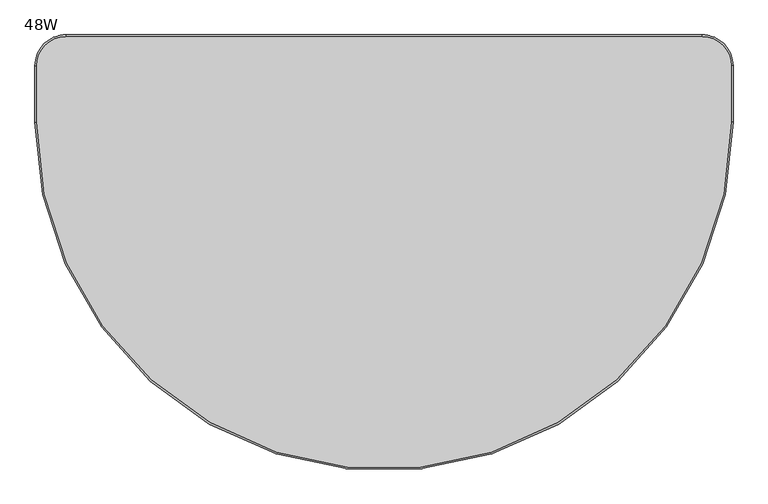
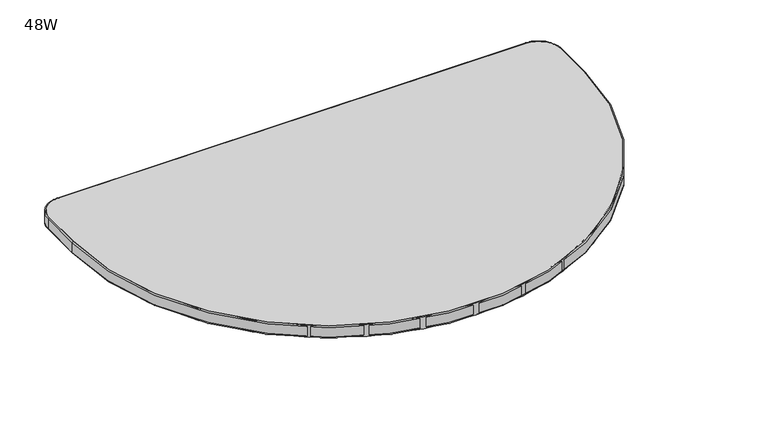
"""IFC4 building model written with IfcOpenShell, lengths in millimetres: furniture geometry, Steelcase - Answer Solution - Universal Table - Spanner : 48W."""

from ifc_helpers import new_model, si_unit, point, frame, frame_2d, origin, place, context, project, spatial, polyline, circle_curve, ellipse_curve, trimmed, segment, composite_curve, outline, extrude, source, transform, mapped, element, save
from ifc_brep_helpers import plane_surface, cylinder_surface, revolved_surface, advanced_brep


def furniture_48w_0849805d(model_context):
    return source(origin(), model_context, "Body", "SolidModel", [
        extrude(outline(composite_curve([segment(polyline([(-555.752, -3.0479999), (555.752, -3.0479999)]), True, "CONTINUOUS"), segment(trimmed(circle_curve(frame_2d((555.752, -53.8479999)), 50.8), [point((555.752, -3.0479999))], [point((606.552, -53.8479999))], False, "CARTESIAN"), True, "CONTINUOUS"), segment(polyline([(606.552, -53.8479999), (606.552, -152.3999999)]), True, "CONTINUOUS"), segment(trimmed(circle_curve(frame_2d((0.0, -152.3999999)), 606.552), [point((606.552, -152.3999999))], [point((-606.552, -152.3999999))], False, "CARTESIAN"), True, "CONTINUOUS"), segment(polyline([(-606.552, -152.3999999), (-606.552, -53.8479999)]), True, "CONTINUOUS"), segment(trimmed(circle_curve(frame_2d((-555.752, -53.8479999)), 50.8), [point((-606.552, -53.8479999))], [point((-555.752, -3.0479999))], False, "CARTESIAN"), True, "CONTINUOUS")], self_intersect=False)), frame((0.0, 0.0, 668.274), z_axis=(0.0, 0.0, 1.0), x_axis=(1.0, 0.0, 0.0)), (0.0, 0.0, 1.0), 30.1752685),
        advanced_brep(
        [(-609.5999999, -53.8479999, 671.3219999), (-555.752, 0.0, 671.3219999), (-555.752, -3.0479999, 668.274), (-606.552, -53.8479999, 668.274), (-609.5999999, -53.8479999, 695.4012686), (-555.752, 0.0, 695.4012686), (-606.552, -53.8479999, 698.4492685), (-555.752, -3.0479999, 698.4492685), (-606.552, -152.4, 668.274), (-609.5999999, -152.4, 671.3219999), (-609.5999999, -152.4, 695.4012686), (-606.552, -152.4, 698.4492685), (609.5999999, -152.4, 671.3219999), (606.552, -152.4, 668.274), (609.5999999, -152.4, 695.4012686), (606.552, -152.4, 698.4492685), (606.552, -53.8479999, 668.274), (609.5999999, -53.8479999, 671.3219999), (609.5999999, -53.8479999, 695.4012686), (606.552, -53.8479999, 698.4492685), (555.752, 0.0, 671.3219999), (555.752, -3.0479999, 668.274), (555.752, 0.0, 695.4012686), (555.752, -3.0479999, 698.4492685)],
        [
            (0, 1, circle_curve(frame((-555.752, -53.8479999, 671.3219999), z_axis=(0.0, 0.0, -1.0), x_axis=(0.0, 1.0, 0.0)), 53.8479999)),
            (1, 2, circle_curve(frame((-555.752, -3.0479999, 671.3219999), z_axis=(-1.0, 0.0, 0.0), x_axis=(0.0, -1.0, 0.0)), 3.0479999)),
            (2, 3, circle_curve(frame((-555.752, -53.8479999, 668.274), z_axis=(0.0, 0.0, 1.0), x_axis=(0.0, 1.0, 0.0)), 50.8)),
            (3, 0, circle_curve(frame((-606.552, -53.8479999, 671.3219999), z_axis=(0.0, 1.0, 0.0), x_axis=(1.0, 0.0, 0.0)), 3.0479999)),
            (4, 5, circle_curve(frame((-555.752, -53.8479999, 695.4012686), z_axis=(0.0, 0.0, -1.0), x_axis=(0.0, 1.0, 0.0)), 53.8479999)),
            (5, 1),
            (0, 4),
            (6, 7, circle_curve(frame((-555.752, -53.8479999, 698.4492685), z_axis=(0.0, 0.0, -1.0), x_axis=(0.0, 1.0, 0.0)), 50.8)),
            (7, 5, circle_curve(frame((-555.752, -3.0479999, 695.4012686), z_axis=(-1.0, 0.0, 0.0), x_axis=(0.0, -1.0, 0.0)), 3.0479999)),
            (4, 6, circle_curve(frame((-606.552, -53.8479999, 695.4012686), z_axis=(0.0, 1.0, 0.0), x_axis=(1.0, 0.0, 0.0)), 3.0479999)),
            (2, 7),
            (6, 3),
            (3, 8),
            (8, 9, circle_curve(frame((-606.552, -152.4, 671.3219999), z_axis=(0.0, 1.0, 0.0), x_axis=(1.0, 0.0, 0.0)), 3.0479999)),
            (9, 0),
            (9, 10),
            (10, 4),
            (10, 11, circle_curve(frame((-606.552, -152.4, 695.4012686), z_axis=(0.0, 1.0, 0.0), x_axis=(1.0, 0.0, 0.0)), 3.0479999)),
            (11, 6),
            (11, 8),
            (12, 9, circle_curve(frame((0.0, -152.4, 671.3219999), z_axis=(0.0, 0.0, -1.0), x_axis=(-1.0, 0.0, 0.0)), 609.5999999)),
            (8, 13, circle_curve(frame((0.0, -152.4, 668.274), z_axis=(0.0, 0.0, 1.0), x_axis=(-1.0, 0.0, 0.0)), 606.552)),
            (13, 12, circle_curve(frame((606.552, -152.4, 671.3219999), z_axis=(0.0, -1.0, 0.0), x_axis=(-1.0, 0.0, 0.0)), 3.0479999)),
            (14, 10, circle_curve(frame((0.0, -152.4, 695.4012686), z_axis=(0.0, 0.0, -1.0), x_axis=(-1.0, 0.0, 0.0)), 609.5999999)),
            (12, 14),
            (15, 11, circle_curve(frame((0.0, -152.4, 698.4492685), z_axis=(0.0, 0.0, -1.0), x_axis=(-1.0, 0.0, 0.0)), 606.552)),
            (14, 15, circle_curve(frame((606.552, -152.4, 695.4012686), z_axis=(0.0, -1.0, 0.0), x_axis=(-1.0, 0.0, 0.0)), 3.0479999)),
            (15, 13),
            (13, 16),
            (16, 17, circle_curve(frame((606.552, -53.8479999, 671.3219999), z_axis=(0.0, -1.0, 0.0), x_axis=(-1.0, 0.0, 0.0)), 3.0479999)),
            (17, 12),
            (17, 18),
            (18, 14),
            (18, 19, circle_curve(frame((606.552, -53.8479999, 695.4012686), z_axis=(0.0, -1.0, 0.0), x_axis=(-1.0, 0.0, 0.0)), 3.0479999)),
            (19, 15),
            (19, 16),
            (20, 17, circle_curve(frame((555.752, -53.8479999, 671.3219999), z_axis=(0.0, 0.0, -1.0), x_axis=(1.0, 0.0, 0.0)), 53.8479999)),
            (16, 21, circle_curve(frame((555.752, -53.8479999, 668.274), z_axis=(0.0, 0.0, 1.0), x_axis=(1.0, 0.0, 0.0)), 50.8)),
            (21, 20, circle_curve(frame((555.752, -3.0479999, 671.3219999), z_axis=(1.0, 0.0, 0.0), x_axis=(0.0, -1.0, 0.0)), 3.0479999)),
            (22, 18, circle_curve(frame((555.752, -53.8479999, 695.4012686), z_axis=(0.0, 0.0, -1.0), x_axis=(1.0, 0.0, 0.0)), 53.8479999)),
            (20, 22),
            (23, 19, circle_curve(frame((555.752, -53.8479999, 698.4492685), z_axis=(0.0, 0.0, -1.0), x_axis=(1.0, 0.0, 0.0)), 50.8)),
            (22, 23, circle_curve(frame((555.752, -3.0479999, 695.4012686), z_axis=(1.0, 0.0, 0.0), x_axis=(0.0, -1.0, 0.0)), 3.0479999)),
            (23, 21),
            (21, 2),
            (1, 20),
            (5, 22),
            (7, 23),
        ],
        [
            revolved_surface(trimmed(ellipse_curve(frame((-555.752, -3.0479999, 671.3219999), z_axis=(1.0, 0.0, 0.0), x_axis=(0.0, -1.0, 0.0)), 3.0479999, 3.0479999), [point((-555.752, -3.0479999, 668.274))], [point((-555.752, 0.0, 671.3219999))], True, "CARTESIAN"), (-555.752, -53.8479999, 668.274), (0.0, 0.0, 1.0)),
            cylinder_surface(frame((-555.752, -53.8479999, 668.274), z_axis=(0.0, 0.0, 1.0), x_axis=(0.0, 1.0, 0.0)), 53.8479999),
            revolved_surface(trimmed(ellipse_curve(frame((-555.752, -3.0479999, 695.4012686), z_axis=(1.0, 0.0, 0.0), x_axis=(0.0, -1.0, 0.0)), 3.0479999, 3.0479999), [point((-555.752, 0.0, 695.4012686))], [point((-555.752, -3.0479999, 698.4492685))], True, "CARTESIAN"), (-555.752, -53.8479999, 668.274), (0.0, 0.0, 1.0)),
            revolved_surface(polyline([(-555.752, -3.0479999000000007, 698.4492685), (-555.752, -3.0479999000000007, 668.274)]), (-555.752, -53.8479999, 668.274), (0.0, 0.0, 1.0)),
            cylinder_surface(frame((-606.552, -53.8479999, 671.3219999), z_axis=(0.0, 1.0, 0.0), x_axis=(1.0, 0.0, 0.0)), 3.0479999),
            plane_surface(frame((-609.5999999, -53.8479999, 671.3219999), z_axis=(-1.0, 0.0, 0.0), x_axis=(0.0, -1.0, 0.0))),
            cylinder_surface(frame((-606.552, -53.8479999, 695.4012686), z_axis=(0.0, 1.0, 0.0), x_axis=(1.0, 0.0, 0.0)), 3.0479999),
            plane_surface(frame((-606.552, -53.8479999, 698.4492685), z_axis=(1.0, 0.0, 0.0), x_axis=(0.0, -1.0, 0.0))),
            revolved_surface(trimmed(ellipse_curve(frame((-606.552, -152.4, 671.3219999), z_axis=(0.0, 1.0, 0.0), x_axis=(1.0, 0.0, 0.0)), 3.0479999, 3.0479999), [point((-606.552, -152.4, 668.274))], [point((-609.5999999, -152.4, 671.3219999))], True, "CARTESIAN"), (0.0, -152.4, 668.274), (0.0, 0.0, 1.0)),
            cylinder_surface(frame((0.0, -152.4, 668.274), z_axis=(0.0, 0.0, 1.0), x_axis=(-1.0, 0.0, 0.0)), 609.5999999),
            revolved_surface(trimmed(ellipse_curve(frame((-606.552, -152.4, 695.4012686), z_axis=(0.0, 1.0, 0.0), x_axis=(1.0, 0.0, 0.0)), 3.0479999, 3.0479999), [point((-609.5999999, -152.4, 695.4012686))], [point((-606.552, -152.4, 698.4492685))], True, "CARTESIAN"), (0.0, -152.4, 668.274), (0.0, 0.0, 1.0)),
            revolved_surface(polyline([(-606.552, -152.4, 698.4492685), (-606.552, -152.4, 668.274)]), (0.0, -152.4, 668.274), (0.0, 0.0, 1.0)),
            cylinder_surface(frame((606.552, -152.4, 671.3219999), z_axis=(0.0, -1.0, 0.0), x_axis=(-1.0, 0.0, 0.0)), 3.0479999),
            plane_surface(frame((609.5999999, -152.4, 671.3219999), z_axis=(1.0, 0.0, 0.0), x_axis=(0.0, 1.0, 0.0))),
            cylinder_surface(frame((606.552, -152.4, 695.4012686), z_axis=(0.0, -1.0, 0.0), x_axis=(-1.0, 0.0, 0.0)), 3.0479999),
            plane_surface(frame((606.552, -152.4, 698.4492685), z_axis=(-1.0, 0.0, 0.0), x_axis=(0.0, 1.0, 0.0))),
            revolved_surface(trimmed(ellipse_curve(frame((606.552, -53.8479999, 671.3219999), z_axis=(0.0, -1.0, 0.0), x_axis=(-1.0, 0.0, 0.0)), 3.0479999, 3.0479999), [point((606.552, -53.8479999, 668.274))], [point((609.5999999, -53.8479999, 671.3219999))], True, "CARTESIAN"), (555.752, -53.8479999, 668.274), (0.0, 0.0, 1.0)),
            cylinder_surface(frame((555.752, -53.8479999, 668.274), z_axis=(0.0, 0.0, 1.0), x_axis=(1.0, 0.0, 0.0)), 53.8479999),
            revolved_surface(trimmed(ellipse_curve(frame((606.552, -53.8479999, 695.4012686), z_axis=(0.0, -1.0, 0.0), x_axis=(-1.0, 0.0, 0.0)), 3.0479999, 3.0479999), [point((609.5999999, -53.8479999, 695.4012686))], [point((606.552, -53.8479999, 698.4492685))], True, "CARTESIAN"), (555.752, -53.8479999, 668.274), (0.0, 0.0, 1.0)),
            revolved_surface(polyline([(606.5519999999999, -53.8479999, 698.4492685), (606.5519999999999, -53.8479999, 668.274)]), (555.752, -53.8479999, 668.274), (0.0, 0.0, 1.0)),
            cylinder_surface(frame((555.752, -3.0479999, 671.3219999), z_axis=(1.0, 0.0, 0.0), x_axis=(0.0, -1.0, 0.0)), 3.0479999),
            plane_surface(frame((555.752, 0.0, 671.3219999), z_axis=(0.0, 1.0, 0.0), x_axis=(-1.0, 0.0, 0.0))),
            cylinder_surface(frame((555.752, -3.0479999, 695.4012686), z_axis=(1.0, 0.0, 0.0), x_axis=(0.0, -1.0, 0.0)), 3.0479999),
            plane_surface(frame((555.752, -3.0479999, 698.4492685), z_axis=(0.0, -1.0, 0.0), x_axis=(-1.0, 0.0, 0.0))),
        ],
        [
            (0, [[1, 2, 3, 4]]),
            (1, [[5, 6, -1, 7]]),
            (2, [[8, 9, -5, 10]]),
            (3, [[-3, 11, -8, 12]]),
            (4, [[-4, 13, 14, 15]]),
            (5, [[-7, -15, 16, 17]]),
            (6, [[-10, -17, 18, 19]]),
            (7, [[-12, -19, 20, -13]]),
            (8, [[21, -14, 22, 23]]),
            (9, [[24, -16, -21, 25]]),
            (10, [[26, -18, -24, 27]]),
            (11, [[-22, -20, -26, 28]]),
            (12, [[-23, 29, 30, 31]]),
            (13, [[-25, -31, 32, 33]]),
            (14, [[-27, -33, 34, 35]]),
            (15, [[-28, -35, 36, -29]]),
            (16, [[37, -30, 38, 39]]),
            (17, [[40, -32, -37, 41]]),
            (18, [[42, -34, -40, 43]]),
            (19, [[-38, -36, -42, 44]]),
            (20, [[-39, 45, -2, 46]]),
            (21, [[-41, -46, -6, 47]]),
            (22, [[-43, -47, -9, 48]]),
            (23, [[-44, -48, -11, -45]]),
        ],
    ),
    ])


if __name__ == "__main__":
    model = new_model("IFC4")
    model_context = context("Model", 3, world=origin())
    ifc_project = project(units=[si_unit("LENGTHUNIT", "METRE", prefix="MILLI")], contexts=[model_context])
    site = spatial("IfcSite", under=ifc_project)
    building = spatial("IfcBuilding", under=site)
    placement = place(None, origin())
    furniture_48w_shape = furniture_48w_0849805d(model_context)
    element("IfcFurniture", 1, ObjectType="Steelcase - Answer Solution - Universal Table - Spanner : 48W", at=placement, inside=building, context=model_context, shape_type="MappedRepresentation", body=[
        mapped(furniture_48w_shape, transform((0.0, 0.0, 0.0), x_axis=(1.0, 0.0, 0.0), y_axis=(0.0, 1.0, 0.0), z_axis=(0.0, 0.0, 1.0))),
    ])
    save(model, "model.ifc")
